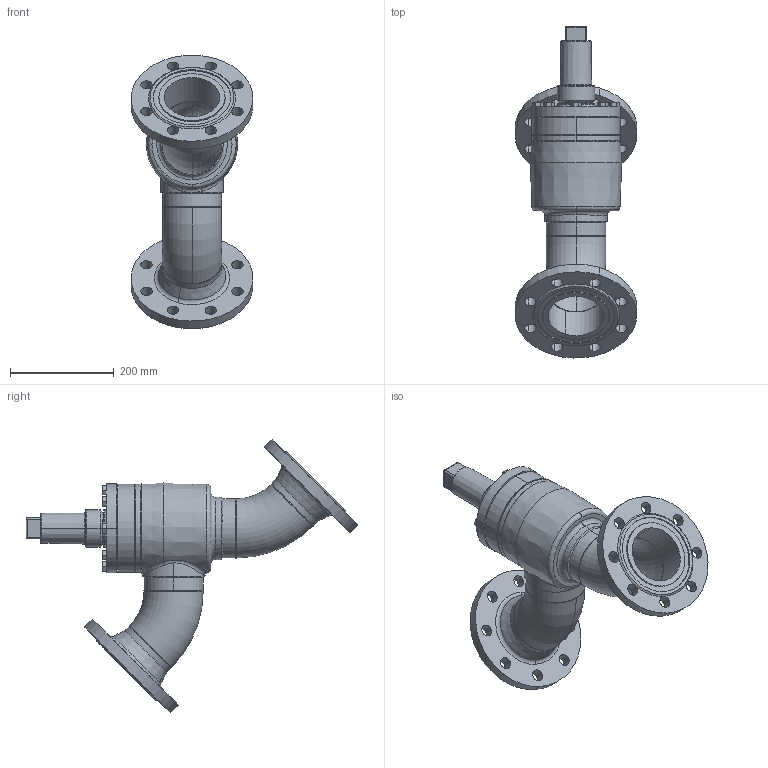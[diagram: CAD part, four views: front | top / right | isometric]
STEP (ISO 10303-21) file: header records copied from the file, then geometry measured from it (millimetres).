
FILE_DESCRIPTION (( 'STEP AP214' ), '1' );
FILE_NAME ('RVAK27320D19-DN100_DIN-FL-N_PS40.STEP', '2007-01-08T09:23:21', ( 'Herr Grams' ), ( 'AWP GmbH' ), 'SwSTEP 2.0', 'SolidWorks 2002296', '' );
FILE_SCHEMA (( 'AUTOMOTIVE_DESIGN' ));
Length unit declared in the file: millimetre
Products named in the file (17): RVAK27320D19-DN100_DIN-FL-N_PS40; Gehäuse-kpl16320-DN100_DIN_PS40_Standard; Gehäuse-kpl16300-DN100_R1_Standard; Gehäuse-kpl16400-DN100_R1_Standard; Kopfstück16300-DN100_Standard; Gehäuse16400-DN100_Standard; bead-DN100-1_Standard; bead-DN100-3_Standard; bead-DN100-2_Standard; Rohrbogen 45°_Rohrbogen-DN100-45°; bead-DN100-6_Standard; bead-DN100-7_Standard; Flansch-DIN-Nut_PS40_DIN-Flansch-DN100_PS40-Nut; RVA29300E19_Deck-Schr-DN100_Standard; Deckel29300E19-DN100_Standard; Sechskantschraube-DIN933_M12x 35; Kappe16402_DN080-100_Standard
Assembly tree (25 placements, depth 5):
  RVAK27320D19-DN100_DIN-FL-N_PS40
    Gehäuse-kpl16320-DN100_DIN_PS40_Standard
      bead-DN100-6_Standard
      bead-DN100-7_Standard
      Gehäuse-kpl16300-DN100_R1_Standard
        bead-DN100-2_Standard
        Rohrbogen 45°_Rohrbogen-DN100-45°  x2
        Gehäuse-kpl16400-DN100_R1_Standard
          Kopfstück16300-DN100_Standard
          bead-DN100-1_Standard
          Gehäuse16400-DN100_Standard
        bead-DN100-3_Standard
      Flansch-DIN-Nut_PS40_DIN-Flansch-DN100_PS40-Nut  x2
    RVA29300E19_Deck-Schr-DN100_Standard
      Deckel29300E19-DN100_Standard
      Sechskantschraube-DIN933_M12x 35  x8
    Kappe16402_DN080-100_Standard
Bounding box: 234.78 x 641.03 x 528.11 mm (x, y, z)
Volume: 4967337.5 mm3; surface area: 888984 mm2
Topology: 21 solids, 21 shells, 462 faces, 1032 edges, 627 vertices
Faces by surface type: cylinder 143, cone 140, plane 127, bspline 26, torus 26
Entity records: 21229 total; most frequent: CARTESIAN_POINT 14811, DIRECTION 1217, ORIENTED_EDGE 1104, EDGE_CURVE 552, AXIS2_PLACEMENT_3D 537, VERTEX_POINT 345, EDGE_LOOP 307, CIRCLE 288
